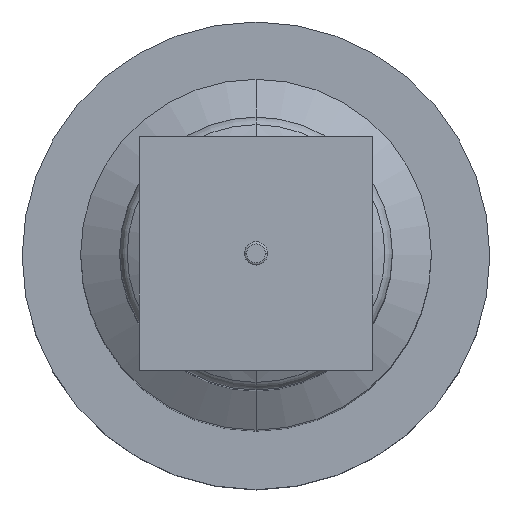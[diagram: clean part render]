
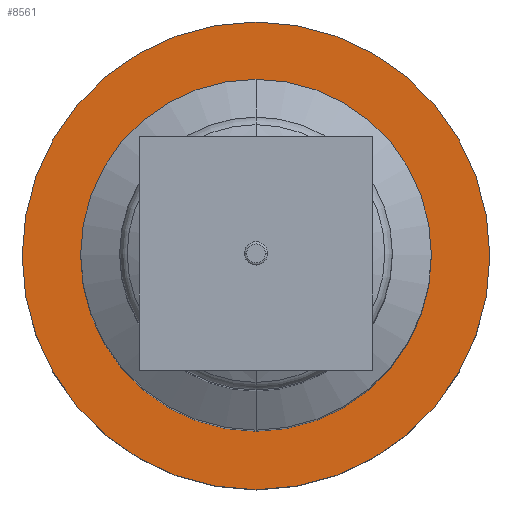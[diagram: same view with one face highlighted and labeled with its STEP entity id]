
A CAD part, top view. The second image highlights one B-rep face of the part: STEP entity #8561.
In plain terms, the highlighted planar face has unit normal (0, 0, 1).
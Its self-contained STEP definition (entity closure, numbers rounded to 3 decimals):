
#385 = CARTESIAN_POINT ( 'NONE',  ( 0., 0., 35. ) ) ;
#1314 = CARTESIAN_POINT ( 'NONE',  ( 0., 30., 35. ) ) ;
#1423 = EDGE_CURVE ( 'NONE', #8022, #7631, #6930, .T. ) ;
#1580 = DIRECTION ( 'NONE',  ( 0., 0., 1. ) ) ;
#1654 = EDGE_LOOP ( 'NONE', ( #9322, #13016 ) ) ;
#2178 = DIRECTION ( 'NONE',  ( 0., 1., 0. ) ) ;
#2398 = DIRECTION ( 'NONE',  ( 0., 1., 0. ) ) ;
#2477 = AXIS2_PLACEMENT_3D ( 'NONE', #12080, #1580, #13845 ) ;
#2889 = AXIS2_PLACEMENT_3D ( 'NONE', #385, #3089, #16337 ) ;
#3089 = DIRECTION ( 'NONE',  ( 0., 0., -1. ) ) ;
#5189 = PLANE ( 'NONE',  #2477 ) ;
#5327 = CARTESIAN_POINT ( 'NONE',  ( 0., 0., 35. ) ) ;
#5669 = FACE_OUTER_BOUND ( 'NONE', #10166, .T. ) ;
#5843 = EDGE_CURVE ( 'NONE', #14554, #14281, #15235, .T. ) ;
#6009 = EDGE_CURVE ( 'NONE', #7631, #8022, #12516, .T. ) ;
#6454 = DIRECTION ( 'NONE',  ( 0., 0., -1. ) ) ;
#6461 = AXIS2_PLACEMENT_3D ( 'NONE', #8748, #15317, #2178 ) ;
#6930 = CIRCLE ( 'NONE', #9970, 22.5 ) ;
#7138 = CARTESIAN_POINT ( 'NONE',  ( 0., 22.5, 35. ) ) ;
#7349 = EDGE_CURVE ( 'NONE', #14281, #14554, #11684, .T. ) ;
#7631 = VERTEX_POINT ( 'NONE', #9495 ) ;
#8022 = VERTEX_POINT ( 'NONE', #7138 ) ;
#8561 = ADVANCED_FACE ( 'NONE', ( #16637, #5669 ), #5189, .T. ) ;
#8748 = CARTESIAN_POINT ( 'NONE',  ( 0., 0., 35. ) ) ;
#9322 = ORIENTED_EDGE ( 'NONE', *, *, #1423, .T. ) ;
#9495 = CARTESIAN_POINT ( 'NONE',  ( 0., -22.5, 35. ) ) ;
#9933 = AXIS2_PLACEMENT_3D ( 'NONE', #10222, #6454, #2398 ) ;
#9970 = AXIS2_PLACEMENT_3D ( 'NONE', #5327, #11968, #14576 ) ;
#10047 = CARTESIAN_POINT ( 'NONE',  ( 0., -30., 35. ) ) ;
#10166 = EDGE_LOOP ( 'NONE', ( #11955, #12753 ) ) ;
#10222 = CARTESIAN_POINT ( 'NONE',  ( 0., 0., 35. ) ) ;
#11684 = CIRCLE ( 'NONE', #6461, 30. ) ;
#11955 = ORIENTED_EDGE ( 'NONE', *, *, #5843, .F. ) ;
#11968 = DIRECTION ( 'NONE',  ( 0., 0., -1. ) ) ;
#12080 = CARTESIAN_POINT ( 'NONE',  ( 0., 22.5, 35. ) ) ;
#12516 = CIRCLE ( 'NONE', #2889, 22.5 ) ;
#12753 = ORIENTED_EDGE ( 'NONE', *, *, #7349, .F. ) ;
#13016 = ORIENTED_EDGE ( 'NONE', *, *, #6009, .T. ) ;
#13845 = DIRECTION ( 'NONE',  ( 0., -1., 0. ) ) ;
#14281 = VERTEX_POINT ( 'NONE', #10047 ) ;
#14554 = VERTEX_POINT ( 'NONE', #1314 ) ;
#14576 = DIRECTION ( 'NONE',  ( 0., 1., 0. ) ) ;
#15235 = CIRCLE ( 'NONE', #9933, 30. ) ;
#15317 = DIRECTION ( 'NONE',  ( 0., 0., -1. ) ) ;
#16337 = DIRECTION ( 'NONE',  ( 0., 1., 0. ) ) ;
#16637 = FACE_BOUND ( 'NONE', #1654, .T. ) ;
